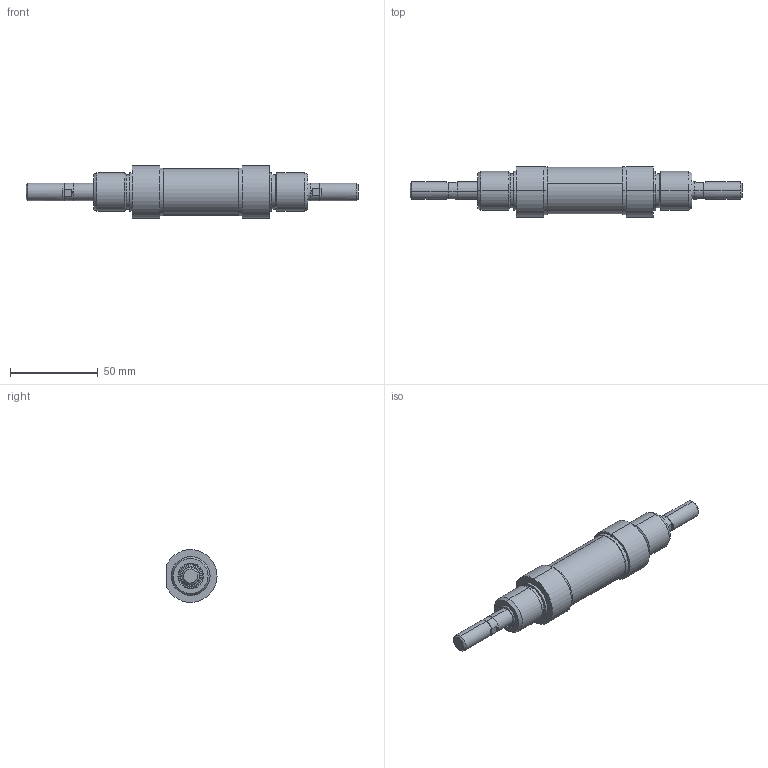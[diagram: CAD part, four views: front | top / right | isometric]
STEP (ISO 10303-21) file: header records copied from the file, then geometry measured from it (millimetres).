
FILE_DESCRIPTION (( 'STEP AP203' ), '1' );
FILE_NAME ('MJ0250010A.step', '2012-10-17T16:40:38', ( '' ), ( '' ), 'SwSTEP 2.0', 'SolidWorks 2012', '' );
FILE_SCHEMA (( 'CONFIG_CONTROL_DESIGN' ));
Length unit declared in the file: millimetre
Products named in the file (1): MJ0250010A
Bounding box: 189 x 28.5 x 30 mm (x, y, z)
Volume: 63787.8 mm3; surface area: 16278.9 mm2
Topology: 1 solids, 2 shells, 124 faces, 274 edges, 172 vertices
Faces by surface type: cylinder 52, plane 40, cone 28, torus 4
Entity records: 3677 total; most frequent: CARTESIAN_POINT 767, DIRECTION 648, ORIENTED_EDGE 548, EDGE_CURVE 274, AXIS2_PLACEMENT_3D 265, VERTEX_POINT 172, EDGE_LOOP 144, CIRCLE 140
